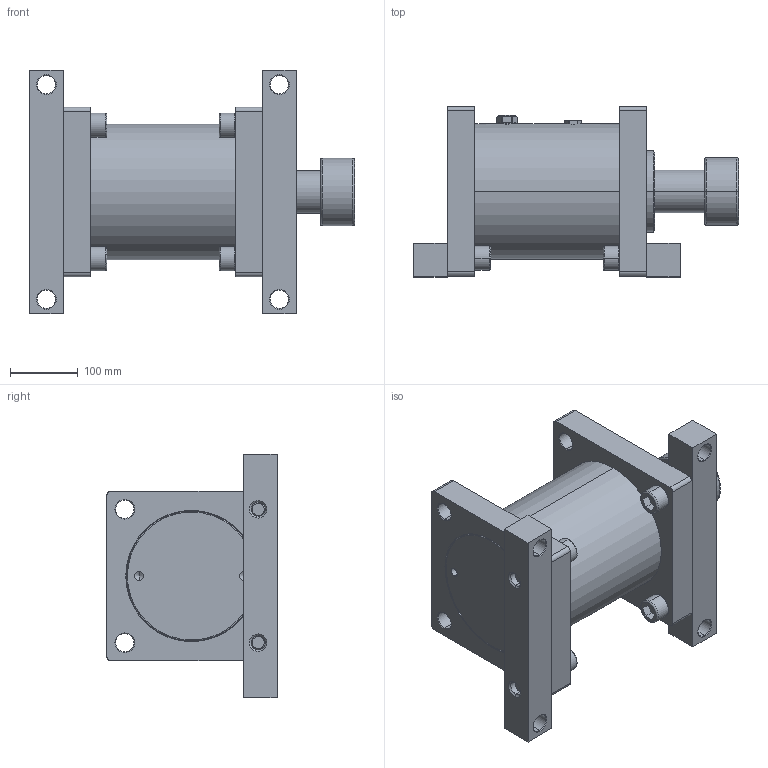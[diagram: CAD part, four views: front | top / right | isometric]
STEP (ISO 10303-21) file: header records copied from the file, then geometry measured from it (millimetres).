
FILE_DESCRIPTION (( 'STEP AP214' ), '1' );
FILE_NAME ('LDD4.0X2.STEP', '2019-01-16T08:35:31', ( 'user' ), ( 'Microsoft' ), 'SwSTEP 2.0', 'SolidWorks 2016', '' );
FILE_SCHEMA (( 'AUTOMOTIVE_DESIGN' ));
Length unit declared in the file: inch
Products named in the file (1): LDD4.0X2
Bounding box: 480 x 251.5 x 360 mm (x, y, z)
Volume: 9539543.6 mm3; surface area: 1199998.5 mm2
Topology: 19 solids, 19 shells, 609 faces, 1368 edges, 824 vertices
Faces by surface type: cylinder 194, cone 170, plane 135, bspline 110
Entity records: 24630 total; most frequent: CARTESIAN_POINT 10916, DIRECTION 2950, ORIENTED_EDGE 2704, EDGE_CURVE 1352, AXIS2_PLACEMENT_3D 1218, VERTEX_POINT 824, CIRCLE 718, EDGE_LOOP 704
